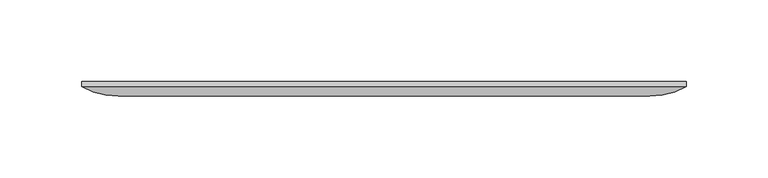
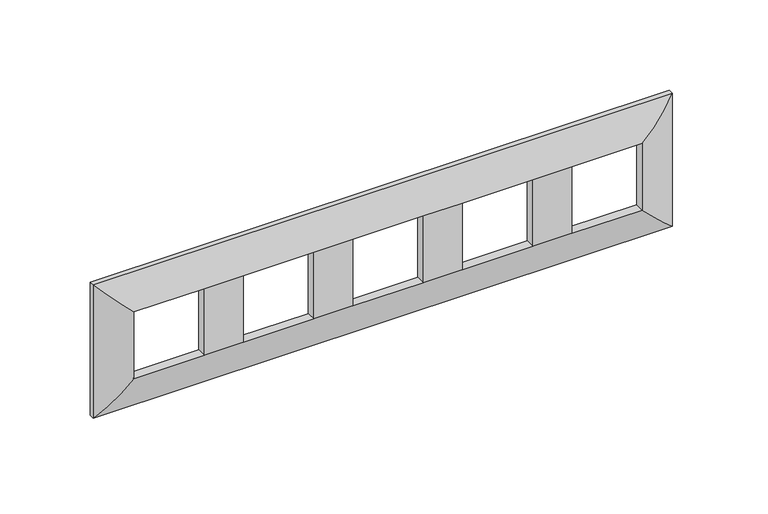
"""IFC4 building model written with IfcOpenShell, lengths in millimetres: proxy geometry."""

import ifcopenshell
import ifcopenshell.guid

model = None  # the IFC model being written
_history = None  # IfcOwnerHistory: only IFC2X3 demands one
_inside = {}  # id of a spatial element -> (the spatial element, [elements in it])
_under = {}  # id of a project, library or spatial element -> (it, [spatial elements below it])
_declared = {}  # id of a project -> (the project, [libraries it declares])
_typed = {}  # id of a type object -> (the type object, [elements of that type])
_made_of = {}  # id of a material, layer set ... -> (it, [elements and type objects made of it])


def new_model(schema):
    """Start an empty IFC model of exactly this schema.

    Asked for "IFC4X3", IfcOpenShell would pick the latest addendum, in which some entities
    have other attributes; the version numbers below select the first issue.
    IFC2X3 requires an IfcOwnerHistory on every rooted entity: one is made here for all.
    """
    global model, _history
    if schema == "IFC4X3":
        model = ifcopenshell.file(schema_version=(4, 3, 0, 0))
    else:
        model = ifcopenshell.file(schema=schema)
    _inside.clear()
    _under.clear()
    _declared.clear()
    _typed.clear()
    _made_of.clear()
    _history = None
    if model.schema == "IFC2X3":
        org = make("IfcOrganization", Name="unknown")
        user = make(
            "IfcPersonAndOrganization",
            ThePerson=make("IfcPerson", FamilyName="unknown"),
            TheOrganization=org,
        )
        app = make(
            "IfcApplication",
            ApplicationDeveloper=org,
            Version="unknown",
            ApplicationFullName="unknown",
            ApplicationIdentifier="unknown",
        )
        _history = make(
            "IfcOwnerHistory",
            OwningUser=user,
            OwningApplication=app,
            ChangeAction="ADDED",
            CreationDate=0,
        )
    return model


def make(cls, **values):
    """One entity of the class cls with the attributes given. An attribute that is None is left unset."""
    return model.create_entity(
        cls, **{name: value for name, value in values.items() if value is not None}
    )


def rooted(cls, **values):
    """An entity with a GlobalId (a new one), such as an element, a storey or a relation."""
    return make(cls, GlobalId=ifcopenshell.guid.new(), OwnerHistory=_history, **values)


def si_unit(unit_type, name, prefix=None):
    """IfcSIUnit, for example si_unit("LENGTHUNIT", "METRE", prefix="MILLI")."""
    return make("IfcSIUnit", UnitType=unit_type, Prefix=prefix, Name=name)


def assignment(units):
    """IfcUnitAssignment: the units of a project."""
    return None if units is None else make("IfcUnitAssignment", Units=units)


def point(xyz):
    """IfcCartesianPoint."""
    return None if xyz is None else make("IfcCartesianPoint", Coordinates=xyz)


def direction(xyz):
    """IfcDirection."""
    return None if xyz is None else make("IfcDirection", DirectionRatios=xyz)


def frame(location, z_axis=None, x_axis=None):
    """IfcAxis2Placement3D, a coordinate frame: its origin and axes. An axis left out is left unset."""
    return make(
        "IfcAxis2Placement3D",
        Location=point(location),
        Axis=direction(z_axis),
        RefDirection=direction(x_axis),
    )


def origin():
    """The frame at (0, 0, 0) with its axes left unset."""
    return frame((0.0, 0.0, 0.0))


def place(relative_to, where):
    """IfcLocalPlacement: puts the frame where relative to a parent placement (None: the world)."""
    return make(
        "IfcLocalPlacement", PlacementRelTo=relative_to, RelativePlacement=where
    )


def context(
    kind, dimensions, precision=None, world=None, true_north=None, identifier=None
):
    """IfcGeometricRepresentationContext, for example the 3D "Model" context."""
    return make(
        "IfcGeometricRepresentationContext",
        ContextIdentifier=identifier,
        ContextType=kind,
        CoordinateSpaceDimension=dimensions,
        Precision=precision,
        WorldCoordinateSystem=world,
        TrueNorth=true_north,
    )


def project(units=None, contexts=None):
    """IfcProject with its units and contexts."""
    return rooted(
        "IfcProject",
        Name="project",
        RepresentationContexts=contexts,
        UnitsInContext=assignment(units),
    )


def spatial(cls, under=None, at=None, **own):
    """A site, building, storey or space (cls), placed at a placement, below another one or the project."""
    s = rooted(cls, ObjectPlacement=at, **own)
    if under is not None:
        _under.setdefault(under.id(), (under, []))[1].append(s)
    return s


def ellipse_curve(where, semi_axis1, semi_axis2):
    """IfcEllipse in the frame where."""
    return make(
        "IfcEllipse", Position=where, SemiAxis1=semi_axis1, SemiAxis2=semi_axis2
    )


def shape(context_of_items, identifier, shape_type, items):
    """IfcShapeRepresentation: the items that make up one representation, for example the "Body"."""
    return make(
        "IfcShapeRepresentation",
        ContextOfItems=context_of_items,
        RepresentationIdentifier=identifier,
        RepresentationType=shape_type,
        Items=items,
    )


def source(mapping_origin, context_of_items, identifier, shape_type, items):
    """IfcRepresentationMap: a shape defined once, which mapped items show again and again."""
    return make(
        "IfcRepresentationMap",
        MappingOrigin=mapping_origin,
        MappedRepresentation=shape(context_of_items, identifier, shape_type, items),
    )


def transform(
    local_origin,
    x_axis=None,
    y_axis=None,
    z_axis=None,
    scale=None,
    scale2=None,
    scale3=None,
    uniform=True,
):
    """IfcCartesianTransformationOperator3D, or its non-uniform kind. x_axis, y_axis, z_axis: its Axis1, 2, 3."""
    if uniform:
        return make(
            "IfcCartesianTransformationOperator3D",
            Axis1=direction(x_axis),
            Axis2=direction(y_axis),
            LocalOrigin=point(local_origin),
            Scale=scale,
            Axis3=direction(z_axis),
        )
    return make(
        "IfcCartesianTransformationOperator3DnonUniform",
        Axis1=direction(x_axis),
        Axis2=direction(y_axis),
        LocalOrigin=point(local_origin),
        Scale=scale,
        Axis3=direction(z_axis),
        Scale2=scale2,
        Scale3=scale3,
    )


def mapped(mapping_source, mapping_target):
    """IfcMappedItem: shows the shape of a source again, moved by a transform."""
    return make(
        "IfcMappedItem", MappingSource=mapping_source, MappingTarget=mapping_target
    )


def made_of(thing, what):
    """Note that an element or type object is made of a material, layer set ...; save() writes the relation."""
    if what is not None:
        _made_of.setdefault(what.id(), (what, []))[1].append(thing)
    return thing


def element(
    cls,
    number,
    at=None,
    inside=None,
    cuts=None,
    type_object=None,
    material=None,
    context=None,
    identifier="Body",
    shape_type=None,
    held_by="IfcProductDefinitionShape",
    body=None,
    shapes=None,
    **own,
):
    """One element of the class cls, such as IfcWall. Its Tag is "e" and its number.

    at: its placement. inside: the storey or other place that contains it. cuts: it is an
    opening in that element (IfcRelVoidsElement). A single representation is given by context,
    identifier, shape_type and body (its items); several are given by shapes. held_by: the class
    of the entity that holds the representations. save() writes the other relations.
    """
    e = rooted(cls, Tag="e%d" % number, ObjectPlacement=at, **own)
    if body is not None:
        shapes = [shape(context, identifier, shape_type, body)]
    if shapes is not None:
        e.Representation = make(held_by, Representations=shapes)
    if inside is not None:
        _inside.setdefault(inside.id(), (inside, []))[1].append(e)
    if cuts is not None:
        rooted(
            "IfcRelVoidsElement", RelatingBuildingElement=cuts, RelatedOpeningElement=e
        )
    if type_object is not None:
        _typed.setdefault(type_object.id(), (type_object, []))[1].append(e)
    return made_of(e, material)


def aggregate(whole, parts):
    """IfcRelAggregates: a whole, such as a stair, and the parts it consists of."""
    return rooted("IfcRelAggregates", RelatingObject=whole, RelatedObjects=parts)


def save(model, path):
    """Write the relations noted so far, then the file.

    IfcRelAggregates (storeys below a building ...), IfcRelContainedInSpatialStructure (elements
    in a storey), IfcRelDefinesByType, IfcRelAssociatesMaterial and IfcRelDeclares: one each for
    every whole, place, type object, material and project.
    """
    for whole, parts in _under.values():
        aggregate(whole, parts)
    for where, things in _inside.values():
        rooted(
            "IfcRelContainedInSpatialStructure",
            RelatedElements=things,
            RelatingStructure=where,
        )
    for kind, things in _typed.values():
        rooted("IfcRelDefinesByType", RelatedObjects=things, RelatingType=kind)
    for what, things in _made_of.values():
        rooted("IfcRelAssociatesMaterial", RelatedObjects=things, RelatingMaterial=what)
    for by, libraries in _declared.values():
        rooted("IfcRelDeclares", RelatingContext=by, RelatedDefinitions=libraries)
    model.write(path)


def plane_surface(at):
    """IfcPlane: the flat surface through the origin of the frame at, square to its z axis."""
    return make("IfcPlane", Position=at)


def cylinder_surface(at, radius):
    """IfcCylindricalSurface: all points at the distance radius from the z axis of the frame at."""
    return make("IfcCylindricalSurface", Position=at, Radius=radius)


def advanced_brep(points, edges, surfaces, faces):
    """IfcAdvancedBrep: a solid bounded by faces that lie on surfaces and meet in shared edges.

    An edge is (start, end): straight between two places in points (the first is 0);
    or (start, end, curve); or (start, end, curve, False) where it runs against its curve.
    A face is (place in surfaces, loops), or (place, loops, False) where it looks against
    its surface's normal. A loop lists edges by number (the first is 1), with a minus sign
    where the edge is run from its end to its start. The first loop is the outer one.
    """
    corners = [point(p) for p in points]
    vertices = [make("IfcVertexPoint", VertexGeometry=c) for c in corners]
    made = []
    for start, end, *more in edges:
        made.append(
            make(
                "IfcEdgeCurve",
                EdgeStart=vertices[start],
                EdgeEnd=vertices[end],
                EdgeGeometry=more[0] if more else make("IfcPolyline", Points=[corners[start], corners[end]]),
                SameSense=more[1] if len(more) > 1 else True,
            )
        )
    hull = []
    for where, loops, *sense in faces:
        bounds = []
        for j, loop in enumerate(loops):
            ring = [make("IfcOrientedEdge", EdgeElement=made[abs(k) - 1], Orientation=k > 0) for k in loop]
            bounds.append(
                make(
                    "IfcFaceOuterBound" if j == 0 else "IfcFaceBound",
                    Bound=make("IfcEdgeLoop", EdgeList=ring),
                    Orientation=True,
                )
            )
        hull.append(make("IfcAdvancedFace", Bounds=bounds, FaceSurface=surfaces[where], SameSense=sense[0] if sense else True))
    return make("IfcAdvancedBrep", Outer=make("IfcClosedShell", CfsFaces=hull))


def electrical_fixtures_b6c30506(model_context):
    return source(origin(), model_context, "Body", "AdvancedBrep", [
        advanced_brep(
        [(162.5, -3.0, -22.5), (162.5, -9.0, -22.5), (162.5, -9.0, 22.5), (162.5, -3.0, 22.5), (117.5, -9.0, 22.5), (117.5, -3.0, 22.5), (-162.5, -9.0, 22.5), (-162.5, -3.0, 22.5), (-117.5, -3.0, 22.5), (-117.5, -9.0, 22.5), (-92.5, -9.0, 22.5), (-92.5, -3.0, 22.5), (-47.5, -3.0, 22.5), (-47.5, -9.0, 22.5), (-22.5, -9.0, 22.5), (-22.5, -3.0, 22.5), (22.5, -3.0, 22.5), (22.5, -9.0, 22.5), (92.5, -3.0, 22.5), (92.5, -9.0, 22.5), (47.5, -9.0, 22.5), (47.5, -3.0, 22.5), (-162.5, -9.0, -22.5), (-162.5, -3.0, -22.5), (117.5, -3.0, -22.5), (117.5, -9.0, -22.5), (-117.5, -9.0, -22.5), (-117.5, -3.0, -22.5), (-92.5, -3.0, -22.5), (-92.5, -9.0, -22.5), (-47.5, -9.0, -22.5), (-47.5, -3.0, -22.5), (-22.5, -3.0, -22.5), (-22.5, -9.0, -22.5), (22.5, -9.0, -22.5), (22.5, -3.0, -22.5), (92.5, -9.0, -22.5), (92.5, -3.0, -22.5), (47.5, -3.0, -22.5), (47.5, -9.0, -22.5), (185.0, 0.0, -45.0), (-185.0, 0.0, -45.0), (-185.0, 0.0, 45.0), (185.0, 0.0, 45.0), (175.5, 0.0, 35.5), (-175.5, 0.0, 35.5), (-175.5, 0.0, -35.5), (175.5, 0.0, -35.5), (185.0, -3.0228771, 45.0), (185.0, -3.0228771, -45.0), (-185.0, -3.0228771, 45.0), (-185.0, -3.0228771, -45.0), (175.5, -3.0, -35.5), (175.5, -3.0, 35.5), (-175.5, -3.0, 35.5), (-175.5, -3.0, -35.5)],
        [
            (0, 1),
            (1, 2),
            (2, 3),
            (3, 0),
            (2, 4),
            (4, 5),
            (5, 3),
            (6, 7),
            (7, 8),
            (8, 9),
            (9, 6),
            (10, 11),
            (11, 12),
            (12, 13),
            (13, 10),
            (14, 15),
            (15, 16),
            (16, 17),
            (17, 14),
            (18, 19),
            (19, 20),
            (20, 21),
            (21, 18),
            (6, 22),
            (22, 23),
            (23, 7),
            (0, 24),
            (24, 25),
            (25, 1),
            (22, 26),
            (26, 27),
            (27, 23),
            (28, 29),
            (29, 30),
            (30, 31),
            (31, 28),
            (32, 33),
            (33, 34),
            (34, 35),
            (35, 32),
            (36, 37),
            (37, 38),
            (38, 39),
            (39, 36),
            (40, 41),
            (41, 42),
            (42, 43),
            (43, 40),
            (44, 45),
            (45, 46),
            (46, 47),
            (47, 44),
            (43, 48),
            (48, 49),
            (49, 40),
            (1, 49, ellipse_curve(frame((162.9967238, 34.4676878, -22.9967238), z_axis=(0.7071067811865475, 0.0, 0.7071067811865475), x_axis=(0.7071067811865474, 0.0, -0.7071067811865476)), 61.4766072, 43.4705258)),
            (48, 2, ellipse_curve(frame((162.9967238, 34.4676878, 22.9967238), z_axis=(0.7071067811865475, 0.0, -0.7071067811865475), x_axis=(-0.7071067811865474, 0.0, -0.7071067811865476)), 61.4766072, 43.4705258)),
            (42, 50),
            (50, 48),
            (50, 6, ellipse_curve(frame((-162.9967238, 34.4676878, 22.9967238), z_axis=(0.7071067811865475, 0.0, 0.7071067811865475), x_axis=(0.7071067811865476, 0.0, -0.7071067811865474)), 61.4766072, 43.4705258)),
            (9, 10),
            (13, 14),
            (17, 20),
            (19, 4),
            (41, 51),
            (51, 50),
            (51, 22, ellipse_curve(frame((-162.9967238, 34.4676878, -22.9967238), z_axis=(-0.7071067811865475, 0.0, 0.7071067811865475), x_axis=(0.7071067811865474, 0.0, 0.7071067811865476)), 61.4766072, 43.4705258)),
            (49, 51),
            (25, 36),
            (39, 34),
            (33, 30),
            (29, 26),
            (47, 52),
            (52, 53),
            (53, 44),
            (53, 54),
            (54, 45),
            (54, 55),
            (55, 46),
            (52, 55),
            (5, 24),
            (21, 38),
            (37, 18),
            (27, 8),
            (11, 28),
            (31, 12),
            (15, 32),
            (35, 16),
            (9, 26),
            (29, 10),
            (13, 30),
            (33, 14),
            (19, 36),
            (25, 4),
            (17, 34),
            (39, 20),
        ],
        [
            plane_surface(frame((162.5, -9.0, -22.5), z_axis=(-1.0, 0.0, 0.0), x_axis=(0.0, 0.0, 1.0))),
            plane_surface(frame((162.5, -9.0, 22.5), z_axis=(0.0, 0.0, -1.0), x_axis=(-1.0, 0.0, 0.0))),
            plane_surface(frame((-162.5, -9.0, 22.5), z_axis=(1.0, 0.0, 0.0), x_axis=(0.0, 0.0, -1.0))),
            plane_surface(frame((-162.5, -9.0, -22.5), z_axis=(0.0, 0.0, 1.0), x_axis=(1.0, 0.0, 0.0))),
            plane_surface(frame((-175.5, 0.0, -35.5), z_axis=(0.0, 1.0, 0.0), x_axis=(1.0, 0.0, 0.0))),
            plane_surface(frame((185.0, 0.0, -45.0), z_axis=(1.0, 0.0, 0.0), x_axis=(0.0, 0.0, 1.0))),
            cylinder_surface(frame((162.9967238, 34.4676878, -45.0), z_axis=(0.0, 0.0, -1.0), x_axis=(-1.0, 0.0, 0.0)), 43.4705258),
            plane_surface(frame((185.0, 0.0, 45.0), z_axis=(0.0, 0.0, 1.0), x_axis=(-1.0, 0.0, 0.0))),
            cylinder_surface(frame((185.0, 34.4676878, 22.9967238), z_axis=(1.0, 0.0, 0.0), x_axis=(0.0, 0.0, -1.0)), 43.4705258),
            plane_surface(frame((-185.0, 0.0, 45.0), z_axis=(-1.0, 0.0, 0.0), x_axis=(0.0, 0.0, -1.0))),
            cylinder_surface(frame((-162.9967238, 34.4676878, 45.0), z_axis=(0.0, 0.0, 1.0), x_axis=(1.0, 0.0, 0.0)), 43.4705258),
            plane_surface(frame((-185.0, 0.0, -45.0), z_axis=(0.0, 0.0, -1.0), x_axis=(1.0, 0.0, 0.0))),
            cylinder_surface(frame((-185.0, 34.4676878, -22.9967238), z_axis=(-1.0, 0.0, 0.0), x_axis=(0.0, 0.0, 1.0)), 43.4705258),
            plane_surface(frame((175.5, -3.0, -35.5), z_axis=(-1.0, 0.0, 0.0), x_axis=(0.0, 0.0, 1.0))),
            plane_surface(frame((175.5, -3.0, 35.5), z_axis=(0.0, 0.0, -1.0), x_axis=(-1.0, 0.0, 0.0))),
            plane_surface(frame((-175.5, -3.0, 35.5), z_axis=(1.0, 0.0, 0.0), x_axis=(0.0, 0.0, -1.0))),
            plane_surface(frame((-162.5, -3.0, -22.5), z_axis=(0.0, 1.0, 0.0), x_axis=(1.0, 0.0, 0.0))),
            plane_surface(frame((-175.5, -3.0, -35.5), z_axis=(0.0, 0.0, 1.0), x_axis=(1.0, 0.0, 0.0))),
            plane_surface(frame((-117.5, -9.0, 22.5), z_axis=(0.0, -1.0, 0.0), x_axis=(-1.0, 0.0, 0.0))),
            plane_surface(frame((-117.5, -9.0, 22.5), z_axis=(-1.0, 0.0, 0.0), x_axis=(0.0, 1.0, 0.0))),
            plane_surface(frame((-92.5, -9.0, -22.5), z_axis=(1.0, 0.0, 0.0), x_axis=(0.0, 1.0, 0.0))),
            plane_surface(frame((-47.5, -9.0, 22.5), z_axis=(0.0, -1.0, 0.0), x_axis=(-1.0, 0.0, 0.0))),
            plane_surface(frame((-47.5, -9.0, 22.5), z_axis=(-1.0, 0.0, 0.0), x_axis=(0.0, 1.0, 0.0))),
            plane_surface(frame((-22.5, -9.0, -22.5), z_axis=(1.0, 0.0, 0.0), x_axis=(0.0, 1.0, 0.0))),
            plane_surface(frame((92.5, -9.0, 22.5), z_axis=(0.0, -1.0, 0.0), x_axis=(-1.0, 0.0, 0.0))),
            plane_surface(frame((92.5, -9.0, 22.5), z_axis=(-1.0, 0.0, 0.0), x_axis=(0.0, 1.0, 0.0))),
            plane_surface(frame((117.5, -9.0, -22.5), z_axis=(1.0, 0.0, 0.0), x_axis=(0.0, 1.0, 0.0))),
            plane_surface(frame((22.5, -9.0, 22.5), z_axis=(0.0, -1.0, 0.0), x_axis=(-1.0, 0.0, 0.0))),
            plane_surface(frame((22.5, -9.0, 22.5), z_axis=(-1.0, 0.0, 0.0), x_axis=(0.0, 1.0, 0.0))),
            plane_surface(frame((47.5, -9.0, -22.5), z_axis=(1.0, 0.0, 0.0), x_axis=(0.0, 1.0, 0.0))),
        ],
        [
            (0, [[1, 2, 3, 4]]),
            (1, [[-3, 5, 6, 7]]),
            (1, [[8, 9, 10, 11]]),
            (1, [[12, 13, 14, 15]]),
            (1, [[16, 17, 18, 19]]),
            (1, [[20, 21, 22, 23]]),
            (2, [[-8, 24, 25, 26]]),
            (3, [[-1, 27, 28, 29]]),
            (3, [[-25, 30, 31, 32]]),
            (3, [[33, 34, 35, 36]]),
            (3, [[37, 38, 39, 40]]),
            (3, [[41, 42, 43, 44]]),
            (4, [[45, 46, 47, 48], [49, 50, 51, 52]]),
            (5, [[-48, 53, 54, 55]]),
            (6, [[-2, 56, -54, 57]]),
            (7, [[-47, 58, 59, -53]]),
            (8, [[-57, -59, 60, -11, 61, -15, 62, -19, 63, -21, 64, -5]]),
            (9, [[-46, 65, 66, -58]]),
            (10, [[-24, -60, -66, 67]]),
            (11, [[-45, -55, 68, -65]]),
            (12, [[-56, -29, 69, -44, 70, -38, 71, -34, 72, -30, -67, -68]]),
            (13, [[-52, 73, 74, 75]]),
            (14, [[-49, -75, 76, 77]]),
            (15, [[-50, -77, 78, 79]]),
            (16, [[-74, 80, -78, -76], [-4, -7, 81, -27], [-23, 82, -42, 83], [-26, -32, 84, -9], [85, -36, 86, -13], [87, -40, 88, -17]]),
            (17, [[-51, -79, -80, -73]]),
            (18, [[89, -72, 90, -61]]),
            (19, [[-89, -10, -84, -31]]),
            (20, [[-90, -33, -85, -12]]),
            (21, [[91, -71, 92, -62]]),
            (22, [[-91, -14, -86, -35]]),
            (23, [[-92, -37, -87, -16]]),
            (24, [[93, -69, 94, -64]]),
            (25, [[-93, -20, -83, -41]]),
            (26, [[-94, -28, -81, -6]]),
            (27, [[95, -70, 96, -63]]),
            (28, [[-95, -18, -88, -39]]),
            (29, [[-96, -43, -82, -22]]),
        ],
    ),
    ])


if __name__ == "__main__":
    model = new_model("IFC4")
    model_context = context("Model", 3, world=origin())
    ifc_project = project(units=[si_unit("LENGTHUNIT", "METRE", prefix="MILLI")], contexts=[model_context])
    site = spatial("IfcSite", under=ifc_project)
    building = spatial("IfcBuilding", under=site)
    placement = place(None, origin())
    electrical_fixtures_shape = electrical_fixtures_b6c30506(model_context)
    element("IfcBuildingElementProxy", 1, Name="Electrical Fixtures", at=placement, inside=building, context=model_context, shape_type="MappedRepresentation", body=[
        mapped(electrical_fixtures_shape, transform((0.0, 0.0, 0.0), x_axis=(1.0, 0.0, 0.0), y_axis=(0.0, 1.0, 0.0), z_axis=(0.0, 0.0, 1.0))),
    ])
    save(model, "model.ifc")
